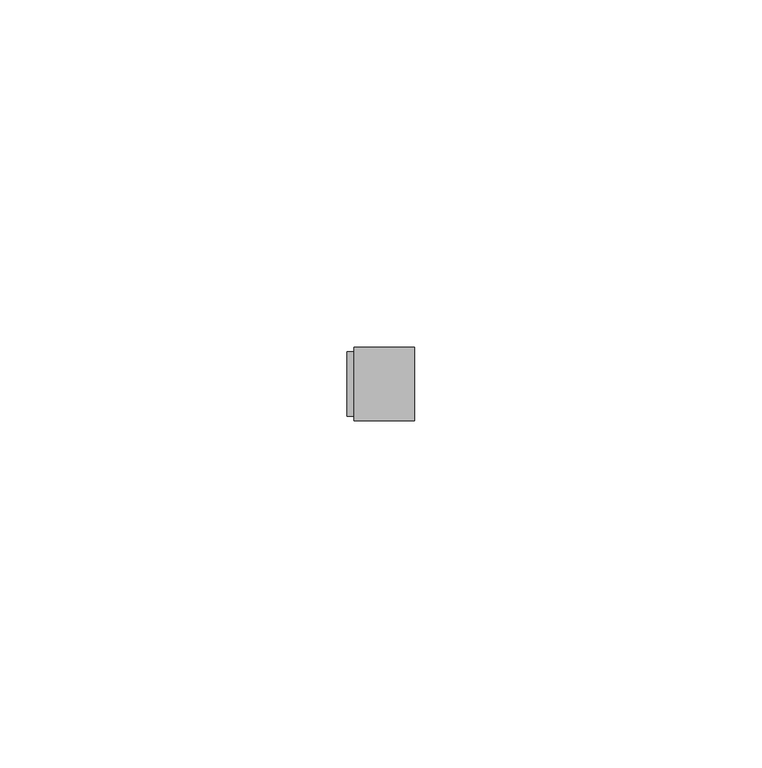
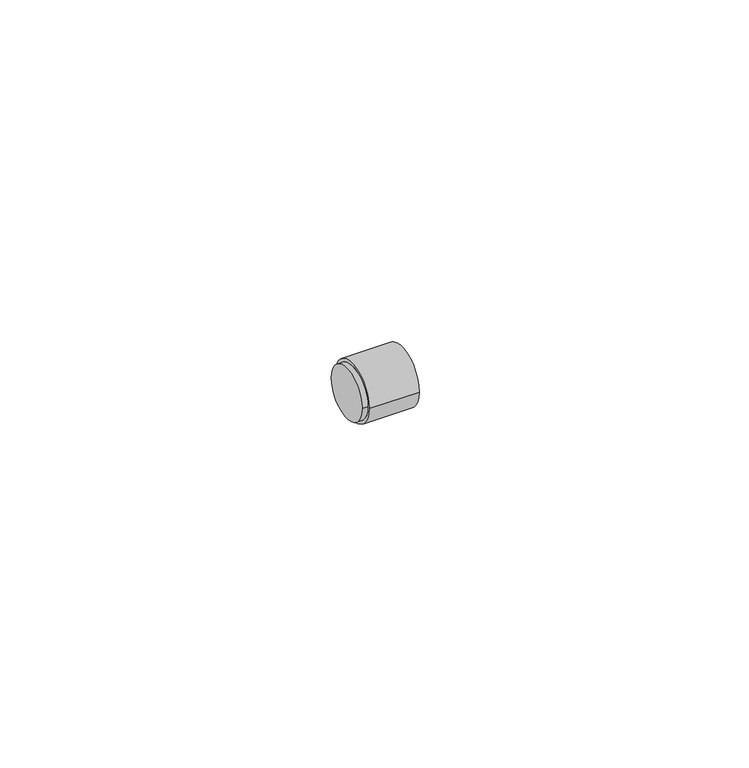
"""IFC4 building model written with IfcOpenShell, lengths in millimetres: pipe fitting geometry, Bucha de redução reta - Soldada - CU : Padrão."""

from ifc_helpers import new_model, si_unit, frame, origin, place, context, project, spatial, circle_curve, source, transform, mapped, element, save
from ifc_brep_helpers import plane_surface, cylinder_surface, advanced_brep


def pipe_fitting_59d1f3e3(model_context):
    return source(origin(), model_context, "Body", "AdvancedBrep", [
        advanced_brep(
        [(0.0, -4.665, 0.0), (0.0, 4.665, 0.0), (1.0, -4.665, 0.0), (1.0, 4.665, 0.0), (9.6744, -5.2552, 0.0), (9.6744, 5.2552, 0.0), (1.0, 5.2552, 0.0), (1.0, -5.2552, 0.0)],
        [
            (0, 1, circle_curve(frame((0.0, 0.0, 0.0), z_axis=(-1.0, 0.0, 0.0), x_axis=(0.0, 1.0, 0.0)), 4.665)),
            (1, 0, circle_curve(frame((0.0, 0.0, 0.0), z_axis=(-1.0, 0.0, 0.0), x_axis=(0.0, 1.0, 0.0)), 4.665)),
            (0, 2),
            (2, 3, circle_curve(frame((1.0, 0.0, 0.0), z_axis=(-1.0, 0.0, 0.0), x_axis=(0.0, 1.0, 0.0)), 4.665)),
            (3, 1),
            (3, 2, circle_curve(frame((1.0, 0.0, 0.0), z_axis=(-1.0, 0.0, 0.0), x_axis=(0.0, 1.0, 0.0)), 4.665)),
            (4, 5, circle_curve(frame((9.6744, 0.0, 0.0), z_axis=(1.0, 0.0, 0.0), x_axis=(0.0, 1.0, 0.0)), 5.2552)),
            (5, 4, circle_curve(frame((9.6744, 0.0, 0.0), z_axis=(1.0, 0.0, 0.0), x_axis=(0.0, 1.0, 0.0)), 5.2552)),
            (6, 7, circle_curve(frame((1.0, 0.0, 0.0), z_axis=(1.0, 0.0, 0.0), x_axis=(0.0, 1.0, 0.0)), 5.2552)),
            (7, 4),
            (5, 6),
            (7, 6, circle_curve(frame((1.0, 0.0, 0.0), z_axis=(1.0, 0.0, 0.0), x_axis=(0.0, 1.0, 0.0)), 5.2552)),
        ],
        [
            plane_surface(frame((0.0, 0.0, 0.0), z_axis=(-1.0, 0.0, 0.0), x_axis=(0.0, 0.0, 1.0))),
            cylinder_surface(frame((0.0, 0.0, 0.0), z_axis=(-1.0, 0.0, 0.0), x_axis=(0.0, 1.0, 0.0)), 4.665),
            plane_surface(frame((9.6744, 0.0, 0.0), z_axis=(1.0, 0.0, 0.0), x_axis=(0.0, 0.0, 1.0))),
            cylinder_surface(frame((1.0, 0.0, 0.0), z_axis=(-1.0, 0.0, 0.0), x_axis=(0.0, 1.0, 0.0)), 5.2552),
            plane_surface(frame((1.0, 0.0, 0.0), z_axis=(-1.0, 0.0, 0.0), x_axis=(0.0, 0.0, 1.0))),
        ],
        [
            (0, [[1, 2]]),
            (1, [[-1, 3, 4, 5]]),
            (1, [[-2, -5, 6, -3]]),
            (2, [[7, 8]]),
            (3, [[9, 10, -8, 11]]),
            (3, [[12, -11, -7, -10]]),
            (4, [[-9, -12], [-4, -6]]),
        ],
    ),
    ])


if __name__ == "__main__":
    model = new_model("IFC4")
    model_context = context("Model", 3, world=origin())
    ifc_project = project(units=[si_unit("LENGTHUNIT", "METRE", prefix="MILLI")], contexts=[model_context])
    site = spatial("IfcSite", under=ifc_project)
    building = spatial("IfcBuilding", under=site)
    placement = place(None, origin())
    pipe_fitting_shape = pipe_fitting_59d1f3e3(model_context)
    element("IfcPipeFitting", 1, ObjectType="Bucha de redução reta - Soldada - CU : Padrão", at=placement, inside=building, context=model_context, shape_type="MappedRepresentation", body=[
        mapped(pipe_fitting_shape, transform((0.0, 0.0, 0.0), x_axis=(1.0, 0.0, 0.0), y_axis=(0.0, 1.0, 0.0), z_axis=(0.0, 0.0, 1.0))),
    ])
    save(model, "model.ifc")
